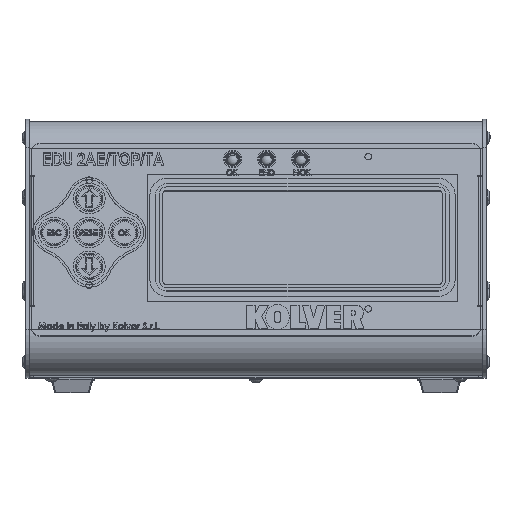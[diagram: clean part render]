
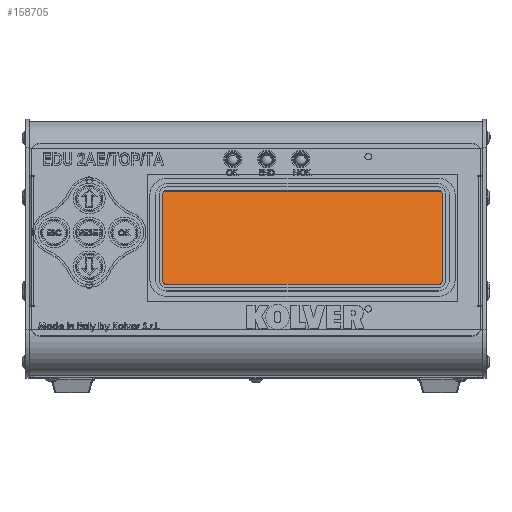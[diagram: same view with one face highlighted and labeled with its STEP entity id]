
A CAD part, top view. The second image highlights one B-rep face of the part: STEP entity #158705.
In plain terms, the highlighted planar face has unit normal (0, 0.259, 0.966).
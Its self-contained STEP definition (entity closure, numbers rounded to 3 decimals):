
#5295 = DIRECTION ( 'NONE',  ( 1., 0., 0. ) ) ;
#9348 = ORIENTED_EDGE ( 'NONE', *, *, #126294, .T. ) ;
#12373 = DIRECTION ( 'NONE',  ( 0., 0.966, -0.259 ) ) ;
#17380 = VECTOR ( 'NONE', #91628, 1000. ) ;
#41239 = LINE ( 'NONE', #111816, #84323 ) ;
#44712 = VERTEX_POINT ( 'NONE', #149155 ) ;
#48269 = CARTESIAN_POINT ( 'NONE',  ( -41.269, 82.211, 82.643 ) ) ;
#52507 = EDGE_LOOP ( 'NONE', ( #9348, #134460, #106745, #140561 ) ) ;
#63879 = FACE_OUTER_BOUND ( 'NONE', #52507, .T. ) ;
#75959 = LINE ( 'NONE', #132560, #172458 ) ;
#84323 = VECTOR ( 'NONE', #12373, 1000. ) ;
#87372 = LINE ( 'NONE', #117967, #91643 ) ;
#90169 = CARTESIAN_POINT ( 'NONE',  ( 82.231, 82.219, 82.641 ) ) ;
#91628 = DIRECTION ( 'NONE',  ( 0., -0.966, 0.259 ) ) ;
#91643 = VECTOR ( 'NONE', #174534, 1000. ) ;
#105562 = VERTEX_POINT ( 'NONE', #48269 ) ;
#105574 = CARTESIAN_POINT ( 'NONE',  ( -41.269, 82.211, 82.643 ) ) ;
#106745 = ORIENTED_EDGE ( 'NONE', *, *, #123391, .T. ) ;
#111816 = CARTESIAN_POINT ( 'NONE',  ( 82.231, 82.219, 82.641 ) ) ;
#113732 = AXIS2_PLACEMENT_3D ( 'NONE', #124965, #180671, #125895 ) ;
#117967 = CARTESIAN_POINT ( 'NONE',  ( -41.269, 82.211, 82.643 ) ) ;
#123391 = EDGE_CURVE ( 'NONE', #44712, #135517, #41239, .T. ) ;
#124965 = CARTESIAN_POINT ( 'NONE',  ( -41.266, 40.677, 93.772 ) ) ;
#125895 = DIRECTION ( 'NONE',  ( 1., 0., 0. ) ) ;
#126294 = EDGE_CURVE ( 'NONE', #105562, #145466, #146427, .T. ) ;
#132560 = CARTESIAN_POINT ( 'NONE',  ( -41.266, 40.677, 93.772 ) ) ;
#133843 = EDGE_CURVE ( 'NONE', #145466, #44712, #75959, .T. ) ;
#134460 = ORIENTED_EDGE ( 'NONE', *, *, #133843, .T. ) ;
#135517 = VERTEX_POINT ( 'NONE', #90169 ) ;
#140561 = ORIENTED_EDGE ( 'NONE', *, *, #169970, .T. ) ;
#145466 = VERTEX_POINT ( 'NONE', #145588 ) ;
#145588 = CARTESIAN_POINT ( 'NONE',  ( -41.266, 40.677, 93.772 ) ) ;
#146427 = LINE ( 'NONE', #105574, #17380 ) ;
#149155 = CARTESIAN_POINT ( 'NONE',  ( 82.234, 40.684, 93.77 ) ) ;
#151898 = PLANE ( 'NONE',  #113732 ) ;
#158705 = ADVANCED_FACE ( 'NONE', ( #63879 ), #151898, .T. ) ;
#169970 = EDGE_CURVE ( 'NONE', #135517, #105562, #87372, .T. ) ;
#172458 = VECTOR ( 'NONE', #5295, 1000. ) ;
#174534 = DIRECTION ( 'NONE',  ( -1., 0., 0. ) ) ;
#180671 = DIRECTION ( 'NONE',  ( 0., 0.259, 0.966 ) ) ;
